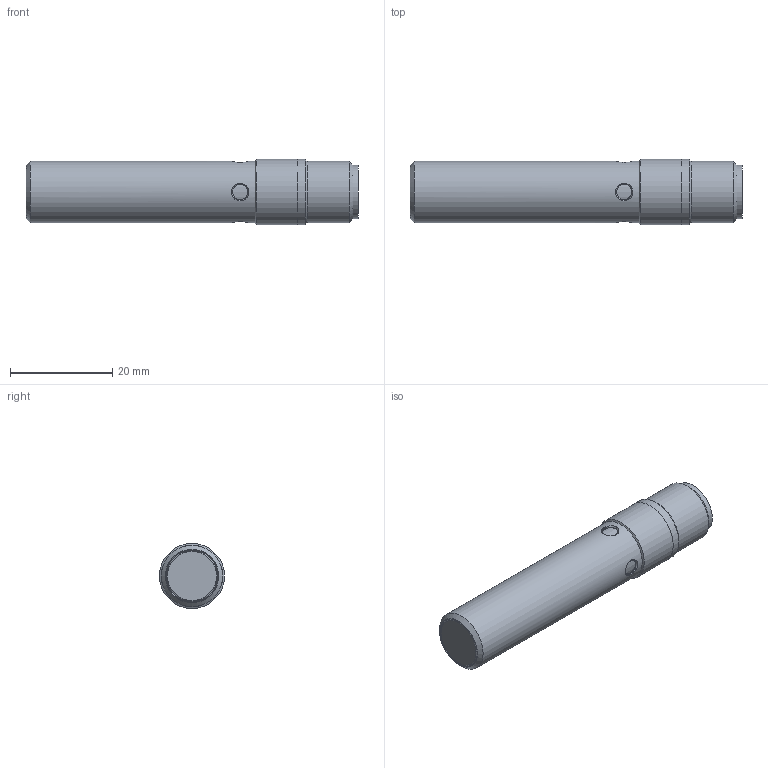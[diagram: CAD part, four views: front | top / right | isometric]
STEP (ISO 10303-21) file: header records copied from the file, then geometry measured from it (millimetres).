
FILE_DESCRIPTION(/* description */ (''),/* implementation_level */ '2;1');
FILE_NAME(/* name */ 'Z:\PG_031_033_365_369\031\progetti\_assemblies 3D\Contorno semplificato\ICS12\ics12_flush_asm.stp',/* time_stamp */ '2015-05-07T15:26:26+02:00',/* author */ ('ddecol'),/* organization */ (''),/* preprocessor_version */ 'ST-DEVELOPER v15.6',/* originating_system */ 'Autodesk Inventor 2015',/* authorisation */ '');
FILE_SCHEMA (('AUTOMOTIVE_DESIGN { 1 0 10303 214 3 1 1 }'));
Length unit declared in the file: millimetre
Products named in the file (1): ics12_flush_asm
Bounding box: 64.8 x 12.7 x 12.7 mm (x, y, z)
Surface area: 3333.6 mm2 (no closed solid volume)
Topology: 0 solids, 6 shells, 52 faces, 136 edges, 91 vertices
Faces by surface type: cylinder 17, plane 13, bspline 12, cone 9, torus 1
Full cylindrical faces by diameter (mm): 1.5 x4, 3 x4, 8.5 x1, 10.5 x1, 11 x1, 12 x2, 12.7 x2
Entity records: 3069 total; most frequent: CARTESIAN_POINT 1920, DIRECTION 191, ORIENTED_EDGE 175, EDGE_CURVE 105, EDGE_LOOP 90, VERTEX_POINT 86, AXIS2_PLACEMENT_3D 84, FACE_OUTER_BOUND 52
